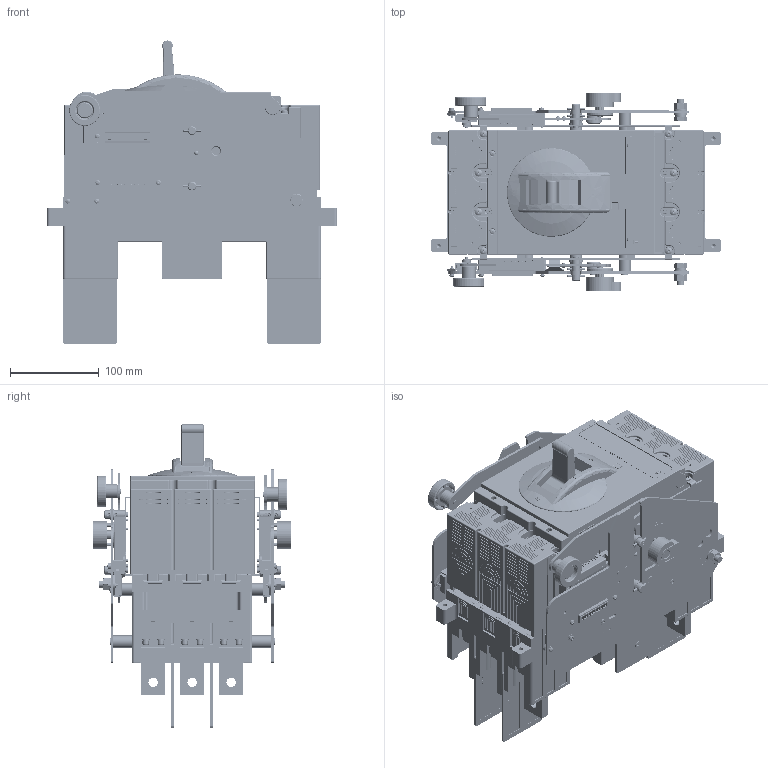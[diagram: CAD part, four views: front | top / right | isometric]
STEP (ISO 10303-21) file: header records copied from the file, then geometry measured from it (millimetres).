
FILE_DESCRIPTION(/* description */ (''),/* implementation_level */ '2;1');
FILE_NAME(/* name */ 'CM5-630 三极抽出式.stp',/* time_stamp */ '2022-03-02T13:23:02+08:00',/* author */ (''),/* organization */ (''),/* preprocessor_version */ 'ST-DEVELOPER v16.7',/* originating_system */ 'SIEMENS PLM Software NX 12.0',/* authorisation */ '');
FILE_SCHEMA (('AUTOMOTIVE_DESIGN { 1 0 10303 214 3 1 1 1 }'));
Products named in the file (1): _model1
Bounding box: 327 x 223.23 x 342.1 mm (x, y, z)
Volume: 5919719.6 mm3; surface area: 1250491.1 mm2
Topology: 5 solids, 213 shells, 15244 faces, 41336 edges, 26534 vertices
Faces by surface type: plane 9462, cylinder 4174, cone 690, torus 432, sphere 222, extrusion 177, bspline 87
Full cylindrical faces by diameter (mm): 0.9 x22, 1 x2, 1.1 x22, 1.2 x34, 1.4 x2, 2.1 x4, 2.2 x4, 2.3 x5, 2.4 x4, 2.5 x23, 2.52 x1, 2.9 x2, 3 x86, 3.1 x8, 3.2 x44, 3.3 x12, 3.5 x40, 4 x70, 4.1 x1, 4.2 x1, 4.3 x60, 4.5 x24, 5 x19, 5.1 x2, 5.188 x6, 5.2 x9, 5.23 x8, 5.5 x14, 5.6 x18, 5.8 x8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
Entity records: 484534 total; most frequent: CARTESIAN_POINT 99751, DIRECTION 78680, ORIENTED_EDGE 78564, EDGE_CURVE 39282, VECTOR 26628, LINE 26451, AXIS2_PLACEMENT_3D 26026, VERTEX_POINT 25808
